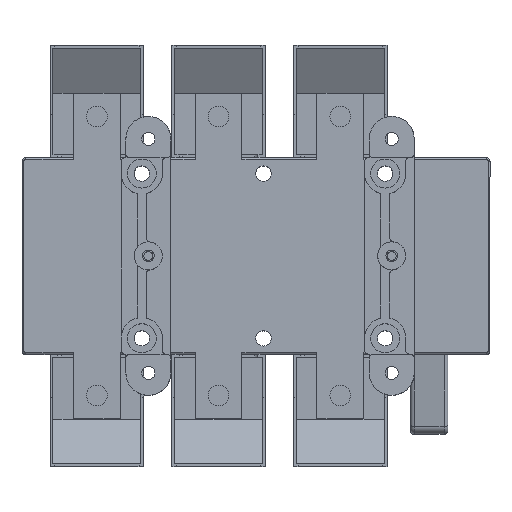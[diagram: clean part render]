
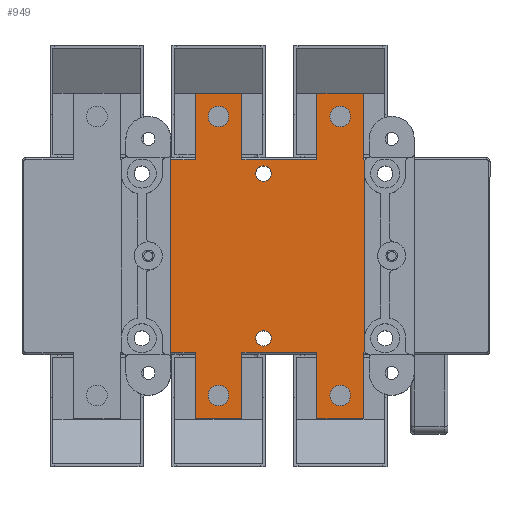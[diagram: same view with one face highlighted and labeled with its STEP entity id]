
A CAD part, top view. The second image highlights one B-rep face of the part: STEP entity #949.
In plain terms, the highlighted planar face has unit normal (0, 0, 1).
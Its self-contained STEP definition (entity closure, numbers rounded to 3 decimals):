
#183=FACE_BOUND('',#2033,.T.);
#184=FACE_BOUND('',#2034,.T.);
#185=FACE_BOUND('',#2035,.T.);
#186=FACE_BOUND('',#2036,.T.);
#187=FACE_BOUND('',#2037,.T.);
#188=FACE_BOUND('',#2038,.T.);
#189=FACE_BOUND('',#2039,.T.);
#424=CIRCLE('',#8138,5.5);
#426=CIRCLE('',#8141,5.5);
#432=CIRCLE('',#8150,5.5);
#434=CIRCLE('',#8153,5.5);
#518=CIRCLE('',#8307,2.);
#520=CIRCLE('',#8310,2.);
#545=CIRCLE('',#8381,4.1);
#546=CIRCLE('',#8382,4.1);
#949=ADVANCED_FACE('',(#183,#184,#185,#186,#187,#188,#189),#1253,.F.);
#1253=PLANE('',#8383);
#2033=EDGE_LOOP('',(#4010));
#2034=EDGE_LOOP('',(#4011));
#2035=EDGE_LOOP('',(#4012,#4013,#4014,#4015,#4016,#4017,#4018,#4019,#4020,
#4021,#4022,#4023,#4024,#4025,#4026,#4027,#4028,#4029,#4030,#4031,#4032,
#4033));
#2036=EDGE_LOOP('',(#4034));
#2037=EDGE_LOOP('',(#4035));
#2038=EDGE_LOOP('',(#4036));
#2039=EDGE_LOOP('',(#4037));
#4010=ORIENTED_EDGE('',*,*,#6056,.F.);
#4011=ORIENTED_EDGE('',*,*,#6057,.F.);
#4012=ORIENTED_EDGE('',*,*,#5690,.F.);
#4013=ORIENTED_EDGE('',*,*,#6041,.T.);
#4014=ORIENTED_EDGE('',*,*,#5752,.F.);
#4015=ORIENTED_EDGE('',*,*,#5743,.F.);
#4016=ORIENTED_EDGE('',*,*,#5748,.F.);
#4017=ORIENTED_EDGE('',*,*,#6025,.T.);
#4018=ORIENTED_EDGE('',*,*,#5799,.T.);
#4019=ORIENTED_EDGE('',*,*,#5795,.T.);
#4020=ORIENTED_EDGE('',*,*,#5803,.T.);
#4021=ORIENTED_EDGE('',*,*,#6026,.T.);
#4022=ORIENTED_EDGE('',*,*,#5940,.T.);
#4023=ORIENTED_EDGE('',*,*,#5991,.T.);
#4024=ORIENTED_EDGE('',*,*,#5936,.T.);
#4025=ORIENTED_EDGE('',*,*,#6021,.T.);
#4026=ORIENTED_EDGE('',*,*,#5816,.T.);
#4027=ORIENTED_EDGE('',*,*,#5818,.T.);
#4028=ORIENTED_EDGE('',*,*,#5812,.T.);
#4029=ORIENTED_EDGE('',*,*,#6016,.T.);
#4030=ORIENTED_EDGE('',*,*,#5761,.F.);
#4031=ORIENTED_EDGE('',*,*,#5766,.F.);
#4032=ORIENTED_EDGE('',*,*,#5764,.F.);
#4033=ORIENTED_EDGE('',*,*,#6040,.T.);
#4034=ORIENTED_EDGE('',*,*,#5739,.T.);
#4035=ORIENTED_EDGE('',*,*,#5737,.T.);
#4036=ORIENTED_EDGE('',*,*,#5731,.T.);
#4037=ORIENTED_EDGE('',*,*,#5729,.T.);
#4759=VERTEX_POINT('',#11972);
#4762=VERTEX_POINT('',#11985);
#4783=VERTEX_POINT('',#12067);
#4785=VERTEX_POINT('',#12072);
#4791=VERTEX_POINT('',#12087);
#4793=VERTEX_POINT('',#12092);
#4797=VERTEX_POINT('',#12100);
#4798=VERTEX_POINT('',#12102);
#4801=VERTEX_POINT('',#12110);
#4802=VERTEX_POINT('',#12114);
#4809=VERTEX_POINT('',#12133);
#4811=VERTEX_POINT('',#12137);
#4813=VERTEX_POINT('',#12143);
#4814=VERTEX_POINT('',#12145);
#4837=VERTEX_POINT('',#12208);
#4838=VERTEX_POINT('',#12210);
#4841=VERTEX_POINT('',#12218);
#4844=VERTEX_POINT('',#12225);
#4850=VERTEX_POINT('',#12243);
#4851=VERTEX_POINT('',#12245);
#4853=VERTEX_POINT('',#12251);
#4854=VERTEX_POINT('',#12253);
#4938=VERTEX_POINT('',#12562);
#4939=VERTEX_POINT('',#12564);
#4942=VERTEX_POINT('',#12571);
#4943=VERTEX_POINT('',#12573);
#4992=VERTEX_POINT('',#12795);
#4993=VERTEX_POINT('',#12797);
#5690=EDGE_CURVE('',#4759,#4762,#6704,.T.);
#5729=EDGE_CURVE('',#4783,#4783,#424,.T.);
#5731=EDGE_CURVE('',#4785,#4785,#426,.T.);
#5737=EDGE_CURVE('',#4791,#4791,#432,.T.);
#5739=EDGE_CURVE('',#4793,#4793,#434,.T.);
#5743=EDGE_CURVE('',#4797,#4798,#6733,.T.);
#5748=EDGE_CURVE('',#4801,#4797,#6737,.T.);
#5752=EDGE_CURVE('',#4798,#4802,#6740,.T.);
#5761=EDGE_CURVE('',#4811,#4809,#6748,.T.);
#5764=EDGE_CURVE('',#4813,#4814,#6750,.T.);
#5766=EDGE_CURVE('',#4814,#4811,#6752,.T.);
#5795=EDGE_CURVE('',#4838,#4837,#6777,.T.);
#5799=EDGE_CURVE('',#4841,#4838,#6781,.T.);
#5803=EDGE_CURVE('',#4837,#4844,#6783,.T.);
#5812=EDGE_CURVE('',#4851,#4850,#6791,.T.);
#5816=EDGE_CURVE('',#4854,#4853,#6795,.T.);
#5818=EDGE_CURVE('',#4853,#4851,#6796,.T.);
#5936=EDGE_CURVE('',#4939,#4938,#518,.T.);
#5940=EDGE_CURVE('',#4943,#4942,#520,.T.);
#5991=EDGE_CURVE('',#4942,#4939,#6875,.T.);
#6016=EDGE_CURVE('',#4850,#4809,#6897,.T.);
#6021=EDGE_CURVE('',#4938,#4854,#6902,.T.);
#6025=EDGE_CURVE('',#4801,#4841,#6906,.T.);
#6026=EDGE_CURVE('',#4844,#4943,#6907,.T.);
#6040=EDGE_CURVE('',#4813,#4762,#6921,.T.);
#6041=EDGE_CURVE('',#4759,#4802,#6922,.T.);
#6056=EDGE_CURVE('',#4992,#4992,#545,.T.);
#6057=EDGE_CURVE('',#4993,#4993,#546,.T.);
#6704=LINE('',#11984,#7527);
#6733=LINE('',#12101,#7556);
#6737=LINE('',#12111,#7560);
#6740=LINE('',#12119,#7563);
#6748=LINE('',#12138,#7571);
#6750=LINE('',#12144,#7573);
#6752=LINE('',#12148,#7575);
#6777=LINE('',#12209,#7600);
#6781=LINE('',#12217,#7604);
#6783=LINE('',#12226,#7606);
#6791=LINE('',#12244,#7614);
#6795=LINE('',#12252,#7618);
#6796=LINE('',#12256,#7619);
#6875=LINE('',#12684,#7698);
#6897=LINE('',#12730,#7720);
#6902=LINE('',#12736,#7725);
#6906=LINE('',#12741,#7729);
#6907=LINE('',#12743,#7730);
#6921=LINE('',#12762,#7744);
#6922=LINE('',#12764,#7745);
#7527=VECTOR('',#9640,1.);
#7556=VECTOR('',#9773,1.);
#7560=VECTOR('',#9781,1.);
#7563=VECTOR('',#9788,1.);
#7571=VECTOR('',#9804,1.);
#7573=VECTOR('',#9810,1.);
#7575=VECTOR('',#9814,1.);
#7600=VECTOR('',#9865,1.);
#7604=VECTOR('',#9871,1.);
#7606=VECTOR('',#9879,1.);
#7614=VECTOR('',#9895,1.);
#7618=VECTOR('',#9901,1.);
#7619=VECTOR('',#9906,1.);
#7698=VECTOR('',#10291,1.);
#7720=VECTOR('',#10347,1.);
#7725=VECTOR('',#10354,1.);
#7729=VECTOR('',#10360,1.);
#7730=VECTOR('',#10363,1.);
#7744=VECTOR('',#10387,1.);
#7745=VECTOR('',#10390,1.);
#8138=AXIS2_PLACEMENT_3D('',#12066,#9735,#9736);
#8141=AXIS2_PLACEMENT_3D('',#12071,#9741,#9742);
#8150=AXIS2_PLACEMENT_3D('',#12086,#9759,#9760);
#8153=AXIS2_PLACEMENT_3D('',#12091,#9765,#9766);
#8307=AXIS2_PLACEMENT_3D('',#12563,#10185,#10186);
#8310=AXIS2_PLACEMENT_3D('',#12572,#10193,#10194);
#8381=AXIS2_PLACEMENT_3D('',#12794,#10425,#10426);
#8382=AXIS2_PLACEMENT_3D('',#12796,#10427,#10428);
#8383=AXIS2_PLACEMENT_3D('',#12798,#10429,#10430);
#9640=DIRECTION('',(0.,1.,0.));
#9735=DIRECTION('',(0.,0.,-1.));
#9736=DIRECTION('',(-1.,0.,0.));
#9741=DIRECTION('',(0.,0.,-1.));
#9742=DIRECTION('',(-1.,0.,0.));
#9759=DIRECTION('',(0.,0.,-1.));
#9760=DIRECTION('',(-1.,0.,0.));
#9765=DIRECTION('',(0.,0.,-1.));
#9766=DIRECTION('',(-1.,0.,0.));
#9773=DIRECTION('',(-1.,0.,0.));
#9781=DIRECTION('',(0.,-1.,0.));
#9788=DIRECTION('',(0.,1.,0.));
#9804=DIRECTION('',(0.,-1.,0.));
#9810=DIRECTION('',(0.,1.,0.));
#9814=DIRECTION('',(1.,0.,0.));
#9865=DIRECTION('',(1.,0.,0.));
#9871=DIRECTION('',(0.,-1.,0.));
#9879=DIRECTION('',(0.,1.,0.));
#9895=DIRECTION('',(0.,-1.,0.));
#9901=DIRECTION('',(0.,1.,0.));
#9906=DIRECTION('',(-1.,0.,0.));
#10185=DIRECTION('',(0.,0.,-1.));
#10186=DIRECTION('',(-1.,0.,0.));
#10193=DIRECTION('',(0.,0.,-1.));
#10194=DIRECTION('',(-1.,0.,0.));
#10291=DIRECTION('',(0.,1.,0.));
#10347=DIRECTION('',(-1.,0.,0.));
#10354=DIRECTION('',(-1.,0.,0.));
#10360=DIRECTION('',(1.,0.,0.));
#10363=DIRECTION('',(1.,0.,0.));
#10387=DIRECTION('',(-1.,0.,0.));
#10390=DIRECTION('',(1.,0.,0.));
#10425=DIRECTION('',(0.,0.,1.));
#10426=DIRECTION('',(-1.,0.,0.));
#10427=DIRECTION('',(0.,0.,1.));
#10428=DIRECTION('',(-1.,0.,0.));
#10429=DIRECTION('',(0.,0.,-1.));
#10430=DIRECTION('',(-1.,0.,0.));
#11972=CARTESIAN_POINT('',(-118.,-51.5,0.));
#11984=CARTESIAN_POINT('',(-118.,62.5,0.));
#11985=CARTESIAN_POINT('',(-118.,51.5,0.));
#12066=CARTESIAN_POINT('',(-27.5,74.5,0.));
#12067=CARTESIAN_POINT('',(-33.,74.5,0.));
#12071=CARTESIAN_POINT('',(-92.5,74.5,0.));
#12072=CARTESIAN_POINT('',(-98.,74.5,0.));
#12086=CARTESIAN_POINT('',(-92.5,-74.5,0.));
#12087=CARTESIAN_POINT('',(-98.,-74.5,0.));
#12091=CARTESIAN_POINT('',(-27.5,-74.5,0.));
#12092=CARTESIAN_POINT('',(-33.,-74.5,0.));
#12100=CARTESIAN_POINT('',(-80.,-87.,0.));
#12101=CARTESIAN_POINT('',(-80.,-87.,0.));
#12102=CARTESIAN_POINT('',(-105.,-87.,0.));
#12110=CARTESIAN_POINT('',(-80.,-51.5,0.));
#12111=CARTESIAN_POINT('',(-80.,87.,0.));
#12114=CARTESIAN_POINT('',(-105.,-51.5,0.));
#12119=CARTESIAN_POINT('',(-105.,-87.,0.));
#12133=CARTESIAN_POINT('',(-80.,51.5,0.));
#12137=CARTESIAN_POINT('',(-80.,87.,0.));
#12138=CARTESIAN_POINT('',(-80.,87.,0.));
#12143=CARTESIAN_POINT('',(-105.,51.5,0.));
#12144=CARTESIAN_POINT('',(-105.,-87.,0.));
#12145=CARTESIAN_POINT('',(-105.,87.,0.));
#12148=CARTESIAN_POINT('',(-105.,87.,0.));
#12208=CARTESIAN_POINT('',(-15.,-87.,0.));
#12209=CARTESIAN_POINT('',(-40.,-87.,0.));
#12210=CARTESIAN_POINT('',(-40.,-87.,0.));
#12217=CARTESIAN_POINT('',(-40.,87.,0.));
#12218=CARTESIAN_POINT('',(-40.,-51.5,0.));
#12225=CARTESIAN_POINT('',(-15.,-51.5,0.));
#12226=CARTESIAN_POINT('',(-15.,-87.,0.));
#12243=CARTESIAN_POINT('',(-40.,51.5,0.));
#12244=CARTESIAN_POINT('',(-40.,87.,0.));
#12245=CARTESIAN_POINT('',(-40.,87.,0.));
#12251=CARTESIAN_POINT('',(-15.,87.,0.));
#12252=CARTESIAN_POINT('',(-15.,-87.,0.));
#12253=CARTESIAN_POINT('',(-15.,51.5,0.));
#12256=CARTESIAN_POINT('',(-15.,87.,0.));
#12562=CARTESIAN_POINT('',(-14.232,51.5,0.));
#12563=CARTESIAN_POINT('',(-12.5,50.5,0.));
#12564=CARTESIAN_POINT('',(-14.5,50.5,0.));
#12571=CARTESIAN_POINT('',(-14.5,-50.5,0.));
#12572=CARTESIAN_POINT('',(-12.5,-50.5,0.));
#12573=CARTESIAN_POINT('',(-14.232,-51.5,0.));
#12684=CARTESIAN_POINT('',(-14.5,62.5,0.));
#12730=CARTESIAN_POINT('',(-195.5,51.5,0.));
#12736=CARTESIAN_POINT('',(-195.5,51.5,0.));
#12741=CARTESIAN_POINT('',(-12.5,-51.5,0.));
#12743=CARTESIAN_POINT('',(-12.5,-51.5,0.));
#12762=CARTESIAN_POINT('',(-195.5,51.5,0.));
#12764=CARTESIAN_POINT('',(-12.5,-51.5,0.));
#12794=CARTESIAN_POINT('',(-68.5,44.,0.));
#12795=CARTESIAN_POINT('',(-72.6,44.,0.));
#12796=CARTESIAN_POINT('',(-68.5,-44.,0.));
#12797=CARTESIAN_POINT('',(-72.6,-44.,0.));
#12798=CARTESIAN_POINT('',(50.5,-50.5,0.));
